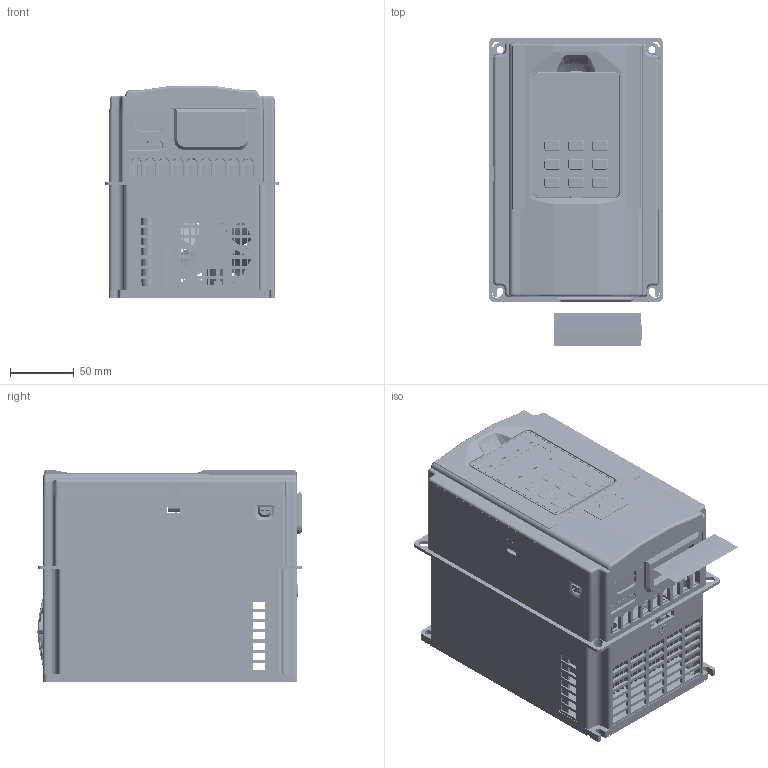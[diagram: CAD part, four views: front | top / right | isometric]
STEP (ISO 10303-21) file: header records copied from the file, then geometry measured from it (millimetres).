
FILE_DESCRIPTION((''),'2;1');
FILE_NAME('T2_ASM','2024-03-28T13:18:24',('dyliuk'),(''),'CREO PARAMETRIC BY PTC INC, 2020044','CREO PARAMETRIC BY PTC INC, 2020044','');
FILE_SCHEMA(('CONFIG_CONTROL_DESIGN','SHAPE_APPEARANCE_LAYERS_GROUPS'));
Products named in the file (37): MANIFOLD_SOLID_BREP_3117_178_43; M4TONGLS-6_2_5_1_1; M4X3_2_3_1_1; 5022V1608_ASM_13_ASM_1_ASM_1_ASM; 8423V1611_5_1_1; 8055V1605_11_1_1; 61200300002_7_1_1; 8300V1605_10_1_1; MANIFOLD_SOLID_BREP_3154_172_33; M3X5_4_1_1; 5355V1607_ASM_9_ASM_1_ASM_1_ASM; 8325V1617_26_1_1; 8730V1602_2_1_1; 8392V1605_15_1_1; 8315V1623_12_1_1; 8315V1624_36_1_1; 2971V1663_ASM_28_ASM_1_ASM_1_ASM; 8315V1617_1; PCB-1_1_1_1; PCB-2-A_1_1_1; LCD-1_1_1_1; ANL01_1_23_1__4_1_1_1; MANIFOLD_SOLID_BREP_21504_1_1; MANIFOLD_SOLID_BREP_21654_1_1; DZ-01_1_3_7_1__1_1_ASM_1_ASM_1_ASM; 5599V1602_ASM_1_ASM; 8865V1605_1; BOX-BOTTOM-PLATE_1_1_1; M4X4_1_1_1; 5022V1607_ASM_1_ASM; LED-11_1_1; PA-3X6_1_1; 5353V1602_ASM_1_ASM; 8865V1601-250T-315T_1_1_1; T2_ASM_1_ASM; 8ZTD-865-1230-00_1_1; T2_ASM
Assembly tree (49 placements, depth 6):
  T2_ASM
    T2_ASM_1_ASM
      2971V1663_ASM_28_ASM_1_ASM_1_ASM
        5022V1608_ASM_13_ASM_1_ASM_1_ASM
          MANIFOLD_SOLID_BREP_3117_178_43
          M4TONGLS-6_2_5_1_1  x2
          M4X3_2_3_1_1  x2
        8423V1611_5_1_1
        8055V1605_11_1_1
        61200300002_7_1_1
        8300V1605_10_1_1
        5355V1607_ASM_9_ASM_1_ASM_1_ASM
          MANIFOLD_SOLID_BREP_3154_172_33
          M3X5_4_1_1
        8325V1617_26_1_1
        8730V1602_2_1_1
        8392V1605_15_1_1
        8315V1623_12_1_1
        8315V1624_36_1_1
      5353V1602_ASM_1_ASM
        8315V1617_1
        5599V1602_ASM_1_ASM
          PCB-1_1_1_1
          PCB-2-A_1_1_1
          LCD-1_1_1_1
          ANL01_1_23_1__4_1_1_1  x9
          DZ-01_1_3_7_1__1_1_ASM_1_ASM_1_ASM
            MANIFOLD_SOLID_BREP_21504_1_1
            MANIFOLD_SOLID_BREP_21654_1_1
        8865V1605_1
        5022V1607_ASM_1_ASM
          BOX-BOTTOM-PLATE_1_1_1
          M4X4_1_1_1  x2
        LED-11_1_1
        PA-3X6_1_1  x3
      8865V1601-250T-315T_1_1_1
    8ZTD-865-1230-00_1_1
Bounding box: 136.9 x 243 x 167.15 mm (x, y, z)
Volume: 444194.1 mm3; surface area: 866985.4 mm2
Topology: 35 solids, 90 shells, 8514 faces, 24840 edges, 16652 vertices
Faces by surface type: plane 5482, cylinder 2063, bspline 361, torus 274, cone 224, extrusion 94, sphere 12, revolution 4
Entity records: 356432 total; most frequent: CARTESIAN_POINT 82112, ORIENTED_EDGE 45876, DIRECTION 41403, EDGE_CURVE 23330, VECTOR 16587, LINE 16493, VERTEX_POINT 15654, PRESENTATION_STYLE_ASSIGNMENT 14971
